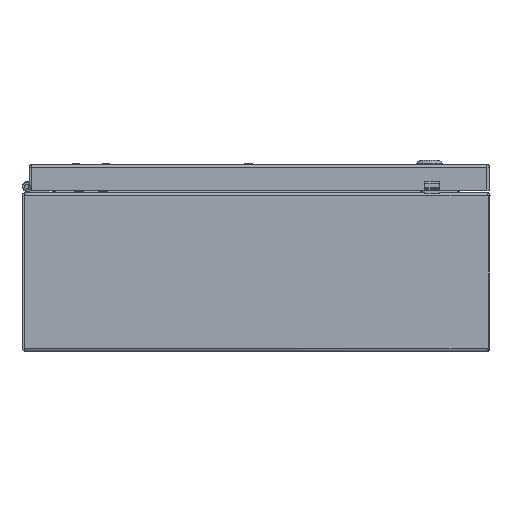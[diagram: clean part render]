
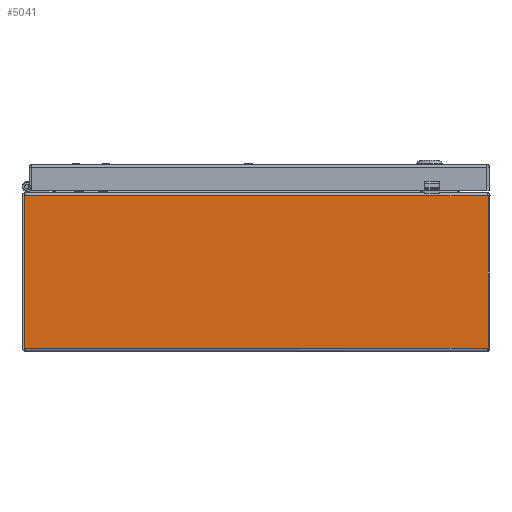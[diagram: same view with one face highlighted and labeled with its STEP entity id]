
A CAD part, front view. The second image highlights one B-rep face of the part: STEP entity #5041.
In plain terms, the highlighted planar face has unit normal (0, -1, 0).
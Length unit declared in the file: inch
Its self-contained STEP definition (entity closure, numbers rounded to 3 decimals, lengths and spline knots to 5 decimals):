
#849 = CARTESIAN_POINT ( 'NONE',  ( -9.76253, -11.8135, 0.13 ) ) ;
#5041 = ADVANCED_FACE ( 'NONE', ( #9343 ), #26668, .F. ) ;
#9343 = FACE_OUTER_BOUND ( 'NONE', #21057, .T. ) ;
#21057 = EDGE_LOOP ( 'NONE', ( #29566, #29568, #29570, #29572 ) ) ;
#23297 = LINE ( 'NONE', #65399, #23302 ) ;
#23302 = VECTOR ( 'NONE', #65401, 39.37008 ) ;
#23336 = LINE ( 'NONE', #65475, #23354 ) ;
#23340 = LINE ( 'NONE', #65466, #23344 ) ;
#23344 = VECTOR ( 'NONE', #65472, 39.37008 ) ;
#23352 = LINE ( 'NONE', #65480, #23353 ) ;
#23353 = VECTOR ( 'NONE', #65481, 39.37008 ) ;
#23354 = VECTOR ( 'NONE', #65483, 39.37008 ) ;
#26644 = DIRECTION ( 'NONE',  ( 0., 0., -1. ) ) ;
#26646 = DIRECTION ( 'NONE',  ( 0., 1., 0. ) ) ;
#26657 = CARTESIAN_POINT ( 'NONE',  ( 127.98004, -11.8135, 6.57 ) ) ;
#26668 = PLANE ( 'NONE',  #44967 ) ;
#29566 = ORIENTED_EDGE ( 'NONE', *, *, #59289, .F. ) ;
#29568 = ORIENTED_EDGE ( 'NONE', *, *, #59294, .F. ) ;
#29570 = ORIENTED_EDGE ( 'NONE', *, *, #59261, .F. ) ;
#29572 = ORIENTED_EDGE ( 'NONE', *, *, #59293, .T. ) ;
#38867 = VERTEX_POINT ( 'NONE', #849 ) ;
#39210 = VERTEX_POINT ( 'NONE', #60069 ) ;
#39285 = VERTEX_POINT ( 'NONE', #60285 ) ;
#39379 = VERTEX_POINT ( 'NONE', #60497 ) ;
#44967 = AXIS2_PLACEMENT_3D ( 'NONE', #26657, #26646, #26644 ) ;
#59261 = EDGE_CURVE ( 'NONE', #39285, #39210, #23297, .T. ) ;
#59289 = EDGE_CURVE ( 'NONE', #38867, #39379, #23340, .T. ) ;
#59293 = EDGE_CURVE ( 'NONE', #39285, #39379, #23352, .T. ) ;
#59294 = EDGE_CURVE ( 'NONE', #39210, #38867, #23336, .T. ) ;
#60069 = CARTESIAN_POINT ( 'NONE',  ( 9.76253, -11.8135, 0.13 ) ) ;
#60285 = CARTESIAN_POINT ( 'NONE',  ( 9.76253, -11.8135, 6.57 ) ) ;
#60497 = CARTESIAN_POINT ( 'NONE',  ( -9.76253, -11.8135, 6.57 ) ) ;
#65399 = CARTESIAN_POINT ( 'NONE',  ( 9.76253, -11.8135, 6.57 ) ) ;
#65401 = DIRECTION ( 'NONE',  ( 0., 0., -1. ) ) ;
#65466 = CARTESIAN_POINT ( 'NONE',  ( -9.76253, -11.8135, 6.57 ) ) ;
#65472 = DIRECTION ( 'NONE',  ( 0., 0., 1. ) ) ;
#65475 = CARTESIAN_POINT ( 'NONE',  ( 127.98004, -11.8135, 0.13 ) ) ;
#65480 = CARTESIAN_POINT ( 'NONE',  ( 127.98004, -11.8135, 6.57 ) ) ;
#65481 = DIRECTION ( 'NONE',  ( -1., 0., 0. ) ) ;
#65483 = DIRECTION ( 'NONE',  ( -1., 0., 0. ) ) ;
